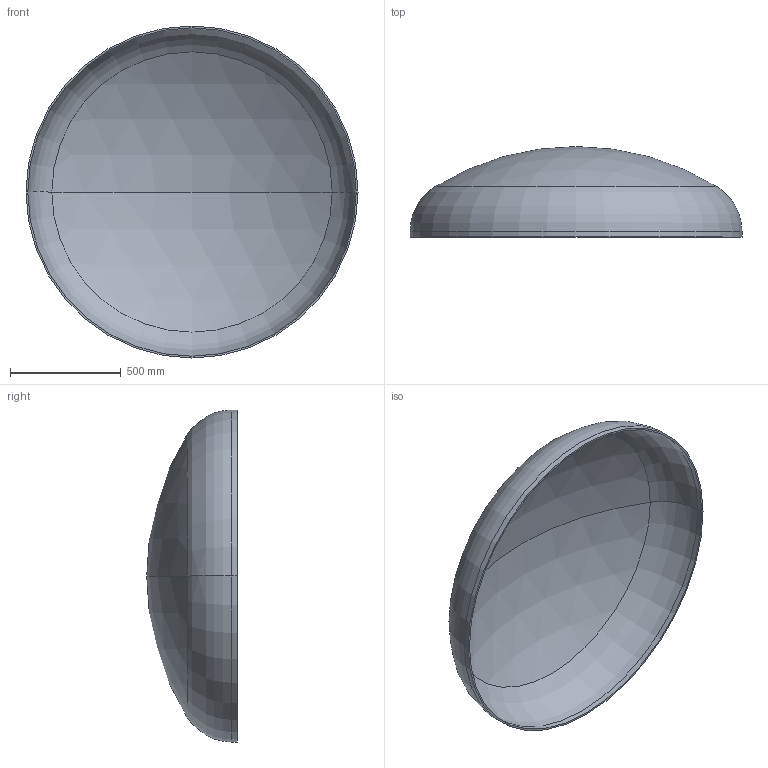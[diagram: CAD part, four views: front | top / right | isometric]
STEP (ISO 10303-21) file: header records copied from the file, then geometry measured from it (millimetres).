
FILE_DESCRIPTION (( 'STEP AP203' ), '1' );
FILE_NAME ('DIN 28013 Korbbogenform_-_Boden DIN 28013 - 1500 x 25 - I - s=8.step', '2016-07-01T10:34:37', ( '' ), ( '' ), 'SwSTEP 2.0', 'SolidWorks 2013', '' );
FILE_SCHEMA (( 'CONFIG_CONTROL_DESIGN' ));
Length unit declared in the file: millimetre
Products named in the file (1): DIN 28013 Korbbogenform_-_Boden DIN 28013 - 1500 x 25 - I - s=8
Bounding box: 1500 x 409.13 x 1500 mm (x, y, z)
Volume: 20363847.9 mm3; surface area: 5128592.1 mm2
Topology: 1 solids, 1 shells, 13 faces, 24 edges, 14 vertices
Faces by surface type: torus 4, cylinder 4, sphere 4, plane 1
Entity records: 407 total; most frequent: DIRECTION 72, CARTESIAN_POINT 52, ORIENTED_EDGE 48, AXIS2_PLACEMENT_3D 34, EDGE_CURVE 24, CIRCLE 20, EDGE_LOOP 14, VERTEX_POINT 14
